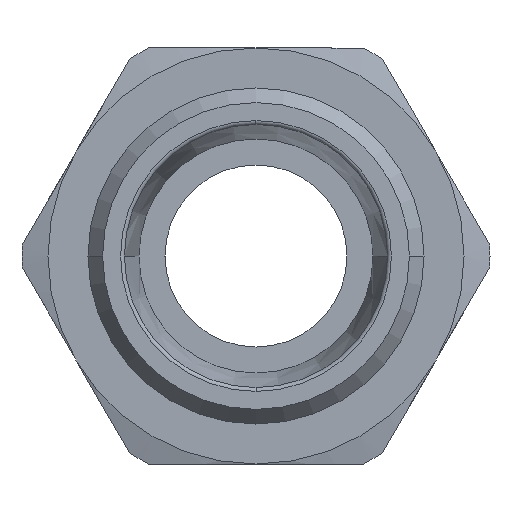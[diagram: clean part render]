
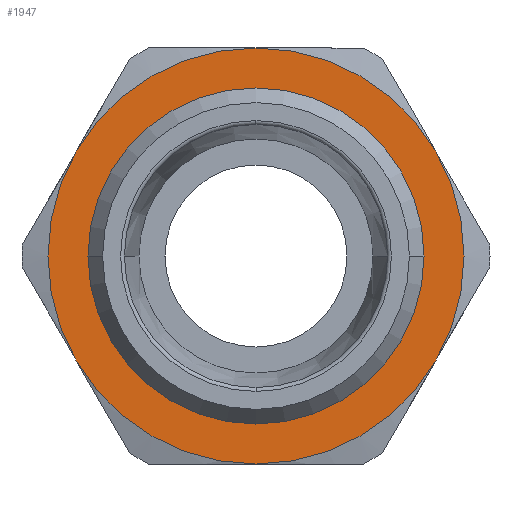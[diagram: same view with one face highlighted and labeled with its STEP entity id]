
A CAD part, left-side view. The second image highlights one B-rep face of the part: STEP entity #1947.
In plain terms, the highlighted planar face has unit normal (-1, 0, 0) as drawn and (0, 0, 1) by its records, which use the part's own axes.
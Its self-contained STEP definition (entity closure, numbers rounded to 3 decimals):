
#857=CARTESIAN_POINT('',(-12.8,0.,3.5));
#858=VERTEX_POINT('',#857);
#884=CARTESIAN_POINT('',(12.8,0.,3.5));
#885=VERTEX_POINT('',#884);
#893=CARTESIAN_POINT('',(0.,0.,3.5));
#894=DIRECTION('',(0.0,0.0,1.0));
#895=DIRECTION('',(-1.0,0.0,0.0));
#896=AXIS2_PLACEMENT_3D('',#893,#894,#895);
#897=CIRCLE('',#896,12.8);
#898=EDGE_CURVE('',#885,#858,#897,.T.);
#1827=CARTESIAN_POINT('',(0.,-12.8,3.5));
#1828=VERTEX_POINT('',#1827);
#1829=CARTESIAN_POINT('',(0.,0.,3.5));
#1830=DIRECTION('',(0.0,0.0,1.0));
#1831=DIRECTION('',(-1.0,0.0,0.0));
#1832=AXIS2_PLACEMENT_3D('',#1829,#1830,#1831);
#1833=CIRCLE('',#1832,12.8);
#1834=EDGE_CURVE('',#858,#1828,#1833,.T.);
#1836=CARTESIAN_POINT('',(0.,0.,3.5));
#1837=DIRECTION('',(0.0,0.0,1.0));
#1838=DIRECTION('',(-1.0,0.0,0.0));
#1839=AXIS2_PLACEMENT_3D('',#1836,#1837,#1838);
#1840=CIRCLE('',#1839,12.8);
#1841=EDGE_CURVE('',#1828,#885,#1840,.T.);
#1881=CARTESIAN_POINT('',(0.0,0.,3.5));
#1882=DIRECTION('',(0.0,0.0,1.0));
#1883=DIRECTION('',(1.0,0.0,0.0));
#1884=AXIS2_PLACEMENT_3D('',#1881,#1882,#1883);
#1885=PLANE('',#1884);
#1886=CARTESIAN_POINT('',(8.,-13.856,3.5));
#1887=VERTEX_POINT('',#1886);
#1888=CARTESIAN_POINT('',(16.,0.0,3.5));
#1889=VERTEX_POINT('',#1888);
#1890=CARTESIAN_POINT('',(0.,0.0,3.5));
#1891=DIRECTION('',(0.0,0.0,1.0));
#1892=DIRECTION('',(1.0,0.0,0.0));
#1893=AXIS2_PLACEMENT_3D('',#1890,#1891,#1892);
#1894=CIRCLE('',#1893,16.0);
#1895=EDGE_CURVE('',#1887,#1889,#1894,.T.);
#1896=ORIENTED_EDGE('',*,*,#1895,.T.);
#1897=CARTESIAN_POINT('',(8.,13.856,3.5));
#1898=VERTEX_POINT('',#1897);
#1899=CARTESIAN_POINT('',(0.,0.0,3.5));
#1900=DIRECTION('',(0.0,0.0,1.0));
#1901=DIRECTION('',(1.0,0.0,0.0));
#1902=AXIS2_PLACEMENT_3D('',#1899,#1900,#1901);
#1903=CIRCLE('',#1902,16.0);
#1904=EDGE_CURVE('',#1889,#1898,#1903,.T.);
#1905=ORIENTED_EDGE('',*,*,#1904,.T.);
#1906=CARTESIAN_POINT('',(-8.,13.856,3.5));
#1907=VERTEX_POINT('',#1906);
#1908=CARTESIAN_POINT('',(0.,0.0,3.5));
#1909=DIRECTION('',(0.0,0.0,1.0));
#1910=DIRECTION('',(1.0,0.0,0.0));
#1911=AXIS2_PLACEMENT_3D('',#1908,#1909,#1910);
#1912=CIRCLE('',#1911,16.0);
#1913=EDGE_CURVE('',#1898,#1907,#1912,.T.);
#1914=ORIENTED_EDGE('',*,*,#1913,.T.);
#1915=CARTESIAN_POINT('',(-16.0,0.,3.5));
#1916=VERTEX_POINT('',#1915);
#1917=CARTESIAN_POINT('',(0.,0.0,3.5));
#1918=DIRECTION('',(0.0,0.0,1.0));
#1919=DIRECTION('',(1.0,0.0,0.0));
#1920=AXIS2_PLACEMENT_3D('',#1917,#1918,#1919);
#1921=CIRCLE('',#1920,16.0);
#1922=EDGE_CURVE('',#1907,#1916,#1921,.T.);
#1923=ORIENTED_EDGE('',*,*,#1922,.T.);
#1924=CARTESIAN_POINT('',(-8.0,-13.856,3.5));
#1925=VERTEX_POINT('',#1924);
#1926=CARTESIAN_POINT('',(0.,0.0,3.5));
#1927=DIRECTION('',(0.0,0.0,1.0));
#1928=DIRECTION('',(1.0,0.0,0.0));
#1929=AXIS2_PLACEMENT_3D('',#1926,#1927,#1928);
#1930=CIRCLE('',#1929,16.0);
#1931=EDGE_CURVE('',#1916,#1925,#1930,.T.);
#1932=ORIENTED_EDGE('',*,*,#1931,.T.);
#1933=CARTESIAN_POINT('',(0.,0.0,3.5));
#1934=DIRECTION('',(0.0,0.0,1.0));
#1935=DIRECTION('',(1.0,0.0,0.0));
#1936=AXIS2_PLACEMENT_3D('',#1933,#1934,#1935);
#1937=CIRCLE('',#1936,16.0);
#1938=EDGE_CURVE('',#1925,#1887,#1937,.T.);
#1939=ORIENTED_EDGE('',*,*,#1938,.T.);
#1940=EDGE_LOOP('',(#1896,#1905,#1914,#1923,#1932,#1939));
#1941=FACE_OUTER_BOUND('',#1940,.T.);
#1942=ORIENTED_EDGE('',*,*,#1841,.F.);
#1943=ORIENTED_EDGE('',*,*,#1834,.F.);
#1944=ORIENTED_EDGE('',*,*,#898,.F.);
#1945=EDGE_LOOP('',(#1942,#1943,#1944));
#1946=FACE_BOUND('',#1945,.T.);
#1947=ADVANCED_FACE('',(#1941,#1946),#1885,.T.);
